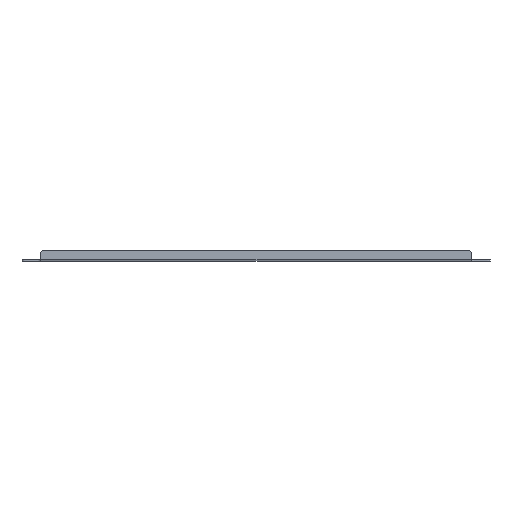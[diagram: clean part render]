
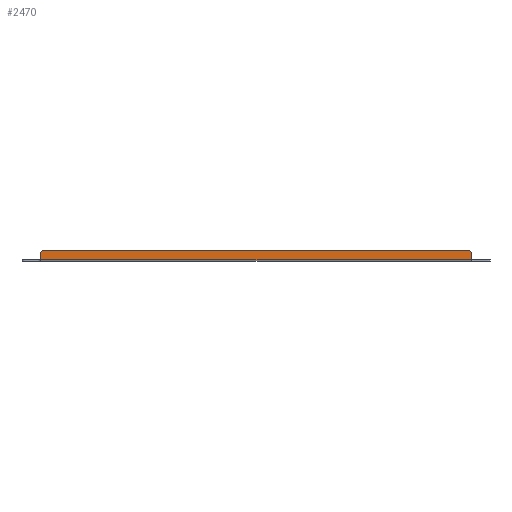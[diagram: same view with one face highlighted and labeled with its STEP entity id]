
A CAD part, front view. The second image highlights one B-rep face of the part: STEP entity #2470.
In plain terms, the highlighted planar face has unit normal (0, -1, 0).
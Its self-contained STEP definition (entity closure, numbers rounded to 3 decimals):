
#61 = EDGE_LOOP ( 'NONE', ( #1613, #2778, #566, #1968, #3079, #2119 ) ) ;
#86 = DIRECTION ( 'NONE',  ( -1., 0., 0. ) ) ;
#152 = CARTESIAN_POINT ( 'NONE',  ( 422.678, -1017.5, 20. ) ) ;
#195 = LINE ( 'NONE', #152, #2687 ) ;
#269 = DIRECTION ( 'NONE',  ( 0., 0., 1. ) ) ;
#280 = CIRCLE ( 'NONE', #1040, 5. ) ;
#288 = PLANE ( 'NONE',  #2528 ) ;
#305 = DIRECTION ( 'NONE',  ( 0., 1., 0. ) ) ;
#314 = CARTESIAN_POINT ( 'NONE',  ( -405., -1017.5, 2.5 ) ) ;
#334 = FACE_OUTER_BOUND ( 'NONE', #61, .T. ) ;
#408 = VERTEX_POINT ( 'NONE', #1156 ) ;
#452 = CARTESIAN_POINT ( 'NONE',  ( -400., -1017.5, 20. ) ) ;
#464 = DIRECTION ( 'NONE',  ( 1., 0., 0. ) ) ;
#566 = ORIENTED_EDGE ( 'NONE', *, *, #867, .F. ) ;
#601 = CARTESIAN_POINT ( 'NONE',  ( 405., -1017.5, 15. ) ) ;
#761 = VECTOR ( 'NONE', #1277, 1000. ) ;
#792 = CARTESIAN_POINT ( 'NONE',  ( 405., -1017.5, 3. ) ) ;
#852 = DIRECTION ( 'NONE',  ( 0., 0., -1. ) ) ;
#867 = EDGE_CURVE ( 'NONE', #2670, #408, #2691, .T. ) ;
#885 = CARTESIAN_POINT ( 'NONE',  ( -405., -1017.5, 2.5 ) ) ;
#954 = VERTEX_POINT ( 'NONE', #1003 ) ;
#981 = EDGE_CURVE ( 'NONE', #954, #1317, #1294, .T. ) ;
#1003 = CARTESIAN_POINT ( 'NONE',  ( -405., -1017.5, 15. ) ) ;
#1040 = AXIS2_PLACEMENT_3D ( 'NONE', #1062, #2724, #1319 ) ;
#1062 = CARTESIAN_POINT ( 'NONE',  ( 400., -1017.5, 15. ) ) ;
#1156 = CARTESIAN_POINT ( 'NONE',  ( 405., -1017.5, 3. ) ) ;
#1255 = VECTOR ( 'NONE', #464, 1000. ) ;
#1277 = DIRECTION ( 'NONE',  ( 0., 0., -1. ) ) ;
#1291 = CIRCLE ( 'NONE', #2732, 5. ) ;
#1294 = LINE ( 'NONE', #885, #2430 ) ;
#1298 = CARTESIAN_POINT ( 'NONE',  ( 405., -1017.5, 2.5 ) ) ;
#1317 = VERTEX_POINT ( 'NONE', #2248 ) ;
#1319 = DIRECTION ( 'NONE',  ( 0., 0., 1. ) ) ;
#1437 = EDGE_CURVE ( 'NONE', #2379, #954, #1291, .T. ) ;
#1455 = DIRECTION ( 'NONE',  ( 0., 0., 1. ) ) ;
#1465 = DIRECTION ( 'NONE',  ( 0., -1., 0. ) ) ;
#1469 = CARTESIAN_POINT ( 'NONE',  ( -400., -1017.5, 15. ) ) ;
#1613 = ORIENTED_EDGE ( 'NONE', *, *, #981, .T. ) ;
#1798 = EDGE_CURVE ( 'NONE', #1317, #408, #3063, .T. ) ;
#1968 = ORIENTED_EDGE ( 'NONE', *, *, #3045, .T. ) ;
#2119 = ORIENTED_EDGE ( 'NONE', *, *, #1437, .T. ) ;
#2248 = CARTESIAN_POINT ( 'NONE',  ( -405., -1017.5, 3. ) ) ;
#2310 = EDGE_CURVE ( 'NONE', #2838, #2379, #195, .T. ) ;
#2379 = VERTEX_POINT ( 'NONE', #452 ) ;
#2430 = VECTOR ( 'NONE', #852, 1000. ) ;
#2470 = ADVANCED_FACE ( 'NONE', ( #334 ), #288, .F. ) ;
#2528 = AXIS2_PLACEMENT_3D ( 'NONE', #314, #305, #269 ) ;
#2626 = CARTESIAN_POINT ( 'NONE',  ( 400., -1017.5, 20. ) ) ;
#2670 = VERTEX_POINT ( 'NONE', #601 ) ;
#2687 = VECTOR ( 'NONE', #86, 1000. ) ;
#2691 = LINE ( 'NONE', #1298, #761 ) ;
#2724 = DIRECTION ( 'NONE',  ( 0., -1., 0. ) ) ;
#2732 = AXIS2_PLACEMENT_3D ( 'NONE', #1469, #1465, #1455 ) ;
#2778 = ORIENTED_EDGE ( 'NONE', *, *, #1798, .T. ) ;
#2838 = VERTEX_POINT ( 'NONE', #2626 ) ;
#3045 = EDGE_CURVE ( 'NONE', #2670, #2838, #280, .T. ) ;
#3063 = LINE ( 'NONE', #792, #1255 ) ;
#3079 = ORIENTED_EDGE ( 'NONE', *, *, #2310, .T. ) ;
